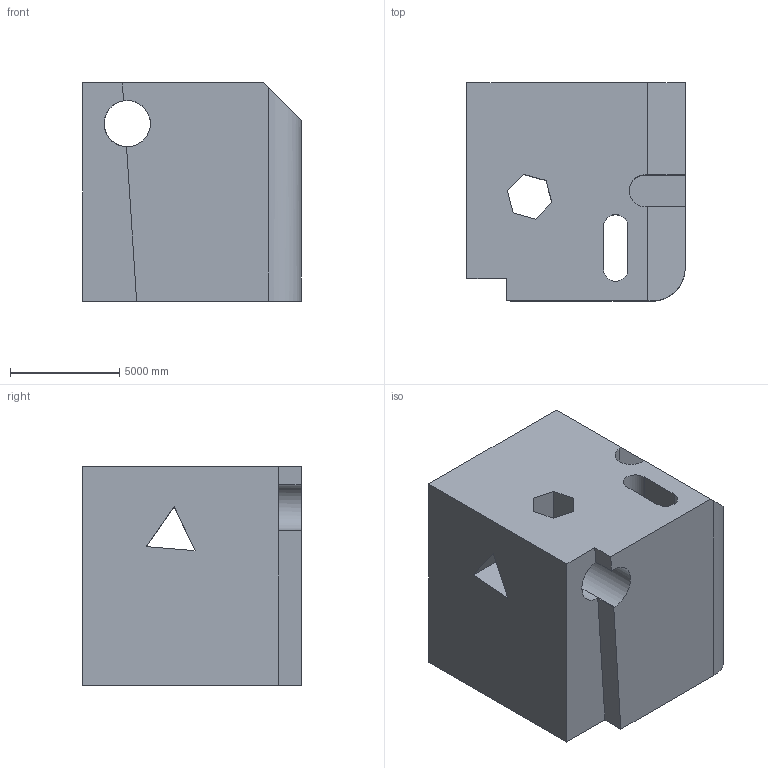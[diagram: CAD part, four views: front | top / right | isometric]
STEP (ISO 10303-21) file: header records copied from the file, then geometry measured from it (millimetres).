
FILE_DESCRIPTION (( 'STEP AP203' ), '1' );
FILE_NAME ('1847.STEP', '2022-08-19T13:29:38', ( 'user' ), ( '' ), 'SwSTEP 2.0', 'SolidWorks 2021', '' );
FILE_SCHEMA (( 'CONFIG_CONTROL_DESIGN' ));
Length unit declared in the file: centimetre
Products named in the file (1): 1847
Bounding box: 10000 x 10000 x 10000 mm (x, y, z)
Volume: 810408543822.5 mm3; surface area: 842781505.2 mm2
Topology: 1 solids, 1 shells, 45 faces, 147 edges, 98 vertices
Faces by surface type: plane 33, cylinder 12
Entity records: 1707 total; most frequent: CARTESIAN_POINT 357, ORIENTED_EDGE 294, DIRECTION 238, EDGE_CURVE 147, LINE 104, VECTOR 104, VERTEX_POINT 98, AXIS2_PLACEMENT_3D 67
